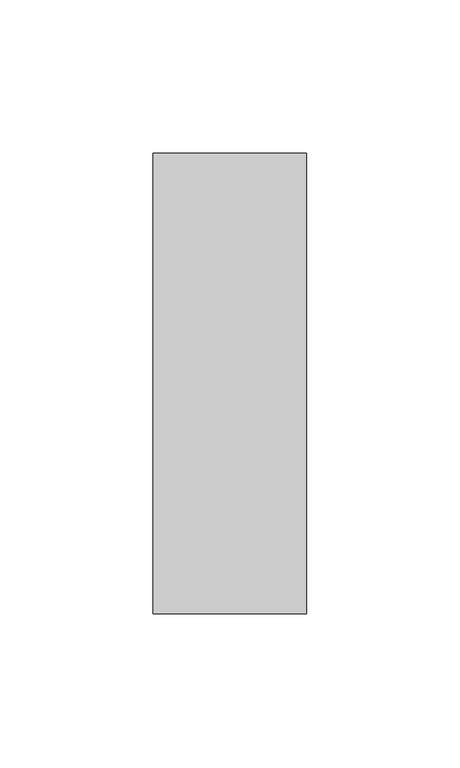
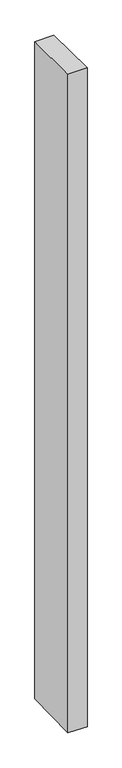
"""IFC4 building model written with IfcOpenShell, lengths in millimetres: member geometry, Прямоугольный импост : 50 x 150 мм."""

from ifc_helpers import new_model, si_unit, origin, place, context, project, spatial, faceted_brep, source, transform, mapped, element, save


def member_6d8b2e3e(model_context):
    return source(origin(), model_context, "Body", "Brep", [
        faceted_brep([(-25.0, 75.0, -0.8336472), (25.0, 75.0, -0.1469658), (25.0, 75.0, -1821.3509016), (-25.0, 75.0, -1820.6061916), (-25.0, -75.0, 0.1469658), (-25.0, -75.0, -1824.0977751), (25.0, -75.0, 0.8336472), (25.0, -75.0, -1824.8424851)], [[[0, 1, 2, 3]], [[4, 0, 3, 5]], [[6, 4, 5, 7]], [[1, 6, 7, 2]], [[1, 0, 4, 6]], [[2, 7, 5, 3]]]),
    ])


if __name__ == "__main__":
    model = new_model("IFC4")
    model_context = context("Model", 3, world=origin())
    ifc_project = project(units=[si_unit("LENGTHUNIT", "METRE", prefix="MILLI")], contexts=[model_context])
    site = spatial("IfcSite", under=ifc_project)
    building = spatial("IfcBuilding", under=site)
    placement = place(None, origin())
    member_shape = member_6d8b2e3e(model_context)
    element("IfcMember", 1, ObjectType="Прямоугольный импост : 50 x 150 мм", at=placement, inside=building, context=model_context, shape_type="MappedRepresentation", body=[
        mapped(member_shape, transform((0.0, 0.0, 0.0), x_axis=(1.0, 0.0, 0.0), y_axis=(0.0, 1.0, 0.0), z_axis=(0.0, 0.0, 1.0))),
    ])
    save(model, "model.ifc")
